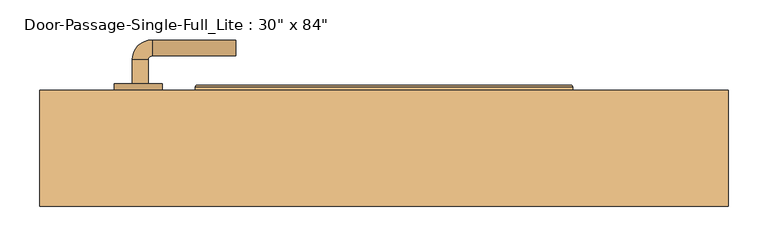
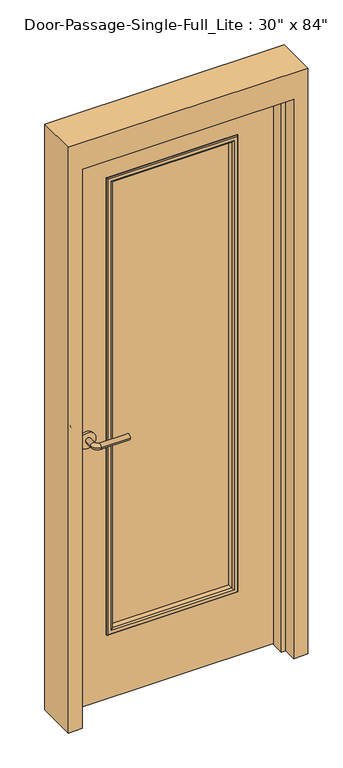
"""IFC4 building model written with IfcOpenShell, lengths in millimetres: door geometry."""

from ifc_helpers import new_model, si_unit, point, frame, frame_2d, origin, place, context, project, spatial, polyline, circle_curve, ellipse_curve, trimmed, segment, composite_curve, outline, extrude, faceted_brep, source, transform, mapped, element, save
from ifc_brep_helpers import plane_surface, cylinder_surface, revolved_surface, advanced_brep


def door_f206b04c(model_context):
    return source(origin(), model_context, "Body", "SolidModel", [
        advanced_brep(
        [(-315.990625, 15.8125, 1016.0), (-295.990625, 15.8125, 1016.0), (-295.990625, -14.1875, 1016.0), (-315.990625, -14.1875, 1016.0), (-290.990625, -19.1875, 1016.0), (-290.990625, -39.1875, 1016.0), (-185.990625, -39.1875, 1016.0), (-185.990625, -19.1875, 1016.0)],
        [
            (0, 1, circle_curve(frame((-305.990625, 15.8125, 1016.0), z_axis=(0.0, 1.0, 0.0), x_axis=(1.0, 0.0, 0.0)), 10.0)),
            (1, 0, circle_curve(frame((-305.990625, 15.8125, 1016.0), z_axis=(0.0, 1.0, 0.0), x_axis=(1.0, 0.0, 0.0)), 10.0)),
            (1, 2),
            (2, 3, circle_curve(frame((-305.990625, -14.1875, 1016.0), z_axis=(0.0, 1.0, 0.0), x_axis=(1.0, 0.0, 0.0)), 10.0)),
            (3, 0),
            (3, 2, circle_curve(frame((-305.990625, -14.1875, 1016.0), z_axis=(0.0, 1.0, 0.0), x_axis=(1.0, 0.0, 0.0)), 10.0)),
            (4, 5, circle_curve(frame((-290.990625, -29.1875, 1016.0), z_axis=(-1.0, 0.0, 0.0), x_axis=(0.0, 1.0, 0.0)), 10.0)),
            (5, 3, circle_curve(frame((-290.990625, -14.1875, 1016.0), z_axis=(0.0, 0.0, -1.0), x_axis=(-1.0, 0.0, 0.0)), 25.0)),
            (2, 4, circle_curve(frame((-290.990625, -14.1875, 1016.0), z_axis=(0.0, 0.0, 1.0), x_axis=(-1.0, 0.0, 0.0)), 5.0)),
            (5, 4, circle_curve(frame((-290.990625, -29.1875, 1016.0), z_axis=(-1.0, 0.0, 0.0), x_axis=(0.0, 1.0, 0.0)), 10.0)),
            (6, 7, circle_curve(frame((-185.990625, -29.1875, 1016.0), z_axis=(1.0, 0.0, 0.0), x_axis=(0.0, 1.0, 0.0)), 10.0)),
            (7, 6, circle_curve(frame((-185.990625, -29.1875, 1016.0), z_axis=(1.0, 0.0, 0.0), x_axis=(0.0, 1.0, 0.0)), 10.0)),
            (4, 7),
            (6, 5),
        ],
        [
            plane_surface(frame((-305.990625, 15.8125, 1016.0), z_axis=(0.0, 1.0, 0.0), x_axis=(0.0, 0.0, 1.0))),
            cylinder_surface(frame((-305.990625, 15.8125, 1016.0), z_axis=(0.0, 1.0, 0.0), x_axis=(1.0, 0.0, 0.0)), 10.0),
            revolved_surface(trimmed(ellipse_curve(frame((-305.990625, -14.1875, 1016.0), z_axis=(0.0, -1.0, 0.0), x_axis=(1.0, 0.0, 0.0)), 10.0, 10.0), [point((-315.990625, -14.1875, 1016.0))], [point((-295.990625, -14.1875, 1016.0))], True, "CARTESIAN"), (-290.990625, -14.1875, 1016.0), (0.0, 0.0, -1.0)),
            revolved_surface(trimmed(ellipse_curve(frame((-305.990625, -14.1875, 1016.0), z_axis=(0.0, -1.0, 0.0), x_axis=(1.0, 0.0, 0.0)), 10.0, 10.0), [point((-295.990625, -14.1875, 1016.0))], [point((-315.990625, -14.1875, 1016.0))], True, "CARTESIAN"), (-290.990625, -14.1875, 1016.0), (0.0, 0.0, -1.0)),
            plane_surface(frame((-185.990625, -29.1875, 1016.0), z_axis=(1.0, 0.0, 0.0), x_axis=(0.0, 0.0, 1.0))),
            cylinder_surface(frame((-290.990625, -29.1875, 1016.0), z_axis=(-1.0, 0.0, 0.0), x_axis=(0.0, 1.0, 0.0)), 10.0),
        ],
        [
            (0, [[1, 2]]),
            (1, [[3, 4, 5, -2]]),
            (1, [[-5, 6, -3, -1]]),
            (2, [[7, 8, -4, 9]]),
            (3, [[10, -9, -6, -8]]),
            (4, [[11, 12]]),
            (5, [[13, -11, 14, -7]]),
            (5, [[-14, -12, -13, -10]]),
        ],
    ),
        extrude(outline(composite_curve([segment(trimmed(circle_curve(frame_2d((1016.0, -308.490625)), 30.0), [point((1016.0, -338.490625))], [point((1016.0, -278.490625))], False, "CARTESIAN"), True, "CONTINUOUS"), segment(trimmed(circle_curve(frame_2d((1016.0, -308.490625)), 30.0), [point((1016.0, -278.490625))], [point((1016.0, -338.490625))], False, "CARTESIAN"), True, "CONTINUOUS")], self_intersect=False)), frame((0.0, 15.8125, 0.0), z_axis=(0.0, 1.0, 0.0), x_axis=(0.0, 0.0, 1.0)), (0.0, 0.0, 1.0), 8.0),
        advanced_brep(
        [(-315.990625, 76.2625, 1016.0), (-295.990625, 76.2625, 1016.0), (-315.990625, 106.2625, 1016.0), (-295.990625, 106.2625, 1016.0), (-290.990625, 111.2625, 1016.0), (-290.990625, 131.2625, 1016.0), (-185.990625, 131.2625, 1016.0), (-185.990625, 111.2625, 1016.0)],
        [
            (0, 1, circle_curve(frame((-305.990625, 76.2625, 1016.0), z_axis=(0.0, -1.0, 0.0), x_axis=(1.0, 0.0, 0.0)), 10.0)),
            (1, 0, circle_curve(frame((-305.990625, 76.2625, 1016.0), z_axis=(0.0, -1.0, 0.0), x_axis=(1.0, 0.0, 0.0)), 10.0)),
            (0, 2),
            (2, 3, circle_curve(frame((-305.990625, 106.2625, 1016.0), z_axis=(0.0, -1.0, 0.0), x_axis=(1.0, 0.0, 0.0)), 10.0)),
            (3, 1),
            (3, 2, circle_curve(frame((-305.990625, 106.2625, 1016.0), z_axis=(0.0, -1.0, 0.0), x_axis=(1.0, 0.0, 0.0)), 10.0)),
            (4, 3, circle_curve(frame((-290.990625, 106.2625, 1016.0), z_axis=(0.0, 0.0, 1.0), x_axis=(-1.0, 0.0, 0.0)), 5.0)),
            (2, 5, circle_curve(frame((-290.990625, 106.2625, 1016.0), z_axis=(0.0, 0.0, -1.0), x_axis=(-1.0, 0.0, 0.0)), 25.0)),
            (5, 4, circle_curve(frame((-290.990625, 121.2625, 1016.0), z_axis=(-1.0, 0.0, 0.0), x_axis=(0.0, -1.0, 0.0)), 10.0)),
            (4, 5, circle_curve(frame((-290.990625, 121.2625, 1016.0), z_axis=(-1.0, 0.0, 0.0), x_axis=(0.0, -1.0, 0.0)), 10.0)),
            (6, 7, circle_curve(frame((-185.990625, 121.2625, 1016.0), z_axis=(1.0, 0.0, 0.0), x_axis=(0.0, -1.0, 0.0)), 10.0)),
            (7, 6, circle_curve(frame((-185.990625, 121.2625, 1016.0), z_axis=(1.0, 0.0, 0.0), x_axis=(0.0, -1.0, 0.0)), 10.0)),
            (5, 6),
            (7, 4),
        ],
        [
            plane_surface(frame((-305.990625, 76.2625, 1016.0), z_axis=(0.0, -1.0, 0.0), x_axis=(0.0, 0.0, 1.0))),
            cylinder_surface(frame((-305.990625, 76.2625, 1016.0), z_axis=(0.0, -1.0, 0.0), x_axis=(1.0, 0.0, 0.0)), 10.0),
            revolved_surface(trimmed(ellipse_curve(frame((-305.990625, 106.2625, 1016.0), z_axis=(0.0, -1.0, 0.0), x_axis=(1.0, 0.0, 0.0)), 10.0, 10.0), [point((-315.990625, 106.2625, 1016.0))], [point((-295.990625, 106.2625, 1016.0))], True, "CARTESIAN"), (-290.990625, 106.2625, 1016.0), (0.0, 0.0, -1.0)),
            revolved_surface(trimmed(ellipse_curve(frame((-305.990625, 106.2625, 1016.0), z_axis=(0.0, -1.0, 0.0), x_axis=(1.0, 0.0, 0.0)), 10.0, 10.0), [point((-295.990625, 106.2625, 1016.0))], [point((-315.990625, 106.2625, 1016.0))], True, "CARTESIAN"), (-290.990625, 106.2625, 1016.0), (0.0, 0.0, -1.0)),
            plane_surface(frame((-185.990625, 121.2625, 1016.0), z_axis=(1.0, 0.0, 0.0), x_axis=(0.0, 0.0, 1.0))),
            cylinder_surface(frame((-290.990625, 121.2625, 1016.0), z_axis=(-1.0, 0.0, 0.0), x_axis=(0.0, -1.0, 0.0)), 10.0),
        ],
        [
            (0, [[1, 2]]),
            (1, [[-1, 3, 4, 5]]),
            (1, [[-2, -5, 6, -3]]),
            (2, [[7, -4, 8, 9]]),
            (3, [[-8, -6, -7, 10]]),
            (4, [[11, 12]]),
            (5, [[-9, 13, -12, 14]]),
            (5, [[-10, -14, -11, -13]]),
        ],
    ),
        extrude(outline(composite_curve([segment(trimmed(circle_curve(frame_2d((1016.0, -308.490625)), 30.0), [point((1016.0, -338.490625))], [point((1016.0, -278.490625))], False, "CARTESIAN"), True, "CONTINUOUS"), segment(trimmed(circle_curve(frame_2d((1016.0, -308.490625)), 30.0), [point((1016.0, -278.490625))], [point((1016.0, -338.490625))], False, "CARTESIAN"), True, "CONTINUOUS")], self_intersect=False)), frame((0.0, 68.2625, 0.0), z_axis=(0.0, 1.0, 0.0), x_axis=(0.0, 0.0, 1.0)), (0.0, 0.0, 1.0), 8.0),
        extrude(outline(polyline([(228.6, 42.8625), (-228.6, 42.8625), (-228.6, 49.2125), (228.6, 49.2125), (228.6, 42.8625)])), frame((0.0, 0.0, 254.0), z_axis=(0.0, 0.0, 1.0), x_axis=(1.0, 0.0, 0.0)), (0.0, 0.0, 1.0), 1727.2),
        faceted_brep([(381.0, 19.05, 0.0), (381.0, 68.2625, 0.0), (431.8, 68.2625, 0.0), (431.8, -77.7875, 0.0), (381.0, -77.7875, 0.0), (381.0, -28.575, 0.0), (365.125, -28.575, 0.0), (365.125, 19.05, 0.0), (381.0, 19.05, 2133.6), (381.0, 68.2625, 2133.6), (-381.0, 68.2625, 2133.6), (-381.0, 68.2625, 0.0), (-431.8, 68.2625, 0.0), (-431.8, 68.2625, 2235.2), (431.8, 68.2625, 2235.2), (431.8, -77.7875, 2235.2), (-431.8, -77.7875, 2235.2), (-431.8, -77.7875, 0.0), (-381.0, -77.7875, 0.0), (-381.0, -77.7875, 2133.6), (381.0, -77.7875, 2133.6), (381.0, -28.575, 2133.6), (-381.0, -28.575, 2133.6), (-381.0, -28.575, 0.0), (-365.125, -28.575, 0.0), (-365.125, -28.575, 2117.725), (365.125, -28.575, 2117.725), (365.125, 19.05, 2117.725), (-365.125, 19.05, 2117.725), (-365.125, 19.05, 0.0), (-381.0, 19.05, 0.0), (-381.0, 19.05, 2133.6)], [[[0, 1, 2, 3, 4, 5, 6, 7]], [[1, 0, 8, 9]], [[2, 1, 9, 10, 11, 12, 13, 14]], [[3, 2, 14, 15]], [[4, 3, 15, 16, 17, 18, 19, 20]], [[5, 4, 20, 21]], [[6, 5, 21, 22, 23, 24, 25, 26]], [[7, 6, 26, 27]], [[0, 7, 27, 28, 29, 30, 31, 8]], [[9, 8, 31, 10]], [[20, 19, 22, 21]], [[26, 25, 28, 27]], [[12, 11, 30, 29, 24, 23, 18, 17]], [[11, 10, 31, 30]], [[13, 12, 17, 16]], [[19, 18, 23, 22]], [[25, 24, 29, 28]], [[15, 14, 13, 16]]]),
        extrude(outline(polyline([(2133.6, -381.0), (0.0, -381.0), (0.0, 381.0), (2133.6, 381.0), (2133.6, -381.0)]), holes=[polyline([(1981.2, -228.6), (1981.2, 228.6), (254.0, 228.6), (254.0, -228.6), (1981.2, -228.6)])]), frame((0.0, 23.8125, 0.0), z_axis=(0.0, 1.0, 0.0), x_axis=(0.0, 0.0, 1.0)), (0.0, 0.0, 1.0), 44.45),
        advanced_brep(
        [(-228.6, 49.2125, 1981.2), (-228.6, 68.2625, 1981.2), (-228.6, 68.2625, 254.0), (-228.6, 49.2125, 254.0), (-216.6, 69.2625, 1969.2), (-216.6, 49.2125, 1969.2), (-216.6, 49.2125, 266.0), (-216.6, 69.2625, 266.0), (-221.6, 74.2625, 1974.2), (-221.6, 74.2625, 261.0), (-236.6, 72.2625, 1989.2), (-234.6, 74.2625, 1987.2), (-234.6, 74.2625, 248.0), (-236.6, 72.2625, 246.0), (-236.6, 68.2625, 1989.2), (-236.6, 68.2625, 246.0), (228.6, 68.2625, 254.0), (228.6, 49.2125, 254.0), (216.6, 49.2125, 266.0), (216.6, 69.2625, 266.0), (221.6, 74.2625, 261.0), (234.6, 74.2625, 248.0), (236.6, 72.2625, 246.0), (236.6, 68.2625, 246.0), (228.6, 68.2625, 1981.2), (228.6, 49.2125, 1981.2), (216.6, 49.2125, 1969.2), (216.6, 69.2625, 1969.2), (221.6, 74.2625, 1974.2), (234.6, 74.2625, 1987.2), (236.6, 72.2625, 1989.2), (236.6, 68.2625, 1989.2)],
        [
            (0, 1),
            (1, 2),
            (2, 3),
            (3, 0),
            (4, 5),
            (5, 6),
            (6, 7),
            (7, 4),
            (8, 4, ellipse_curve(frame((-221.6, 69.2625, 1974.2), z_axis=(-0.7071067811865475, 0.0, -0.7071067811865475), x_axis=(-0.7071067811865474, 0.0, 0.7071067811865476)), 7.0710678, 5.0)),
            (7, 9, ellipse_curve(frame((-221.6, 69.2625, 261.0), z_axis=(-0.7071067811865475, 0.0, 0.7071067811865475), x_axis=(0.7071067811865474, 0.0, 0.7071067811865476)), 7.0710678, 5.0)),
            (9, 8),
            (10, 11, ellipse_curve(frame((-234.6, 72.2625, 1987.2), z_axis=(-0.7071067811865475, 0.0, -0.7071067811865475), x_axis=(-0.7071067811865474, 0.0, 0.7071067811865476)), 2.8284271, 2.0)),
            (11, 12),
            (12, 13, ellipse_curve(frame((-234.6, 72.2625, 248.0), z_axis=(-0.7071067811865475, 0.0, 0.7071067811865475), x_axis=(0.7071067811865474, 0.0, 0.7071067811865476)), 2.8284271, 2.0)),
            (13, 10),
            (14, 10),
            (13, 15),
            (15, 14),
            (2, 16),
            (16, 17),
            (17, 3),
            (6, 18),
            (18, 19),
            (19, 7),
            (19, 20, ellipse_curve(frame((221.6, 69.2625, 261.0), z_axis=(-0.7071067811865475, 0.0, -0.7071067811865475), x_axis=(-0.7071067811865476, 0.0, 0.7071067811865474)), 7.0710678, 5.0)),
            (20, 9),
            (12, 21),
            (21, 22, ellipse_curve(frame((234.6, 72.2625, 248.0), z_axis=(-0.7071067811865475, 0.0, -0.7071067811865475), x_axis=(-0.7071067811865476, 0.0, 0.7071067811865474)), 2.8284271, 2.0)),
            (22, 13),
            (22, 23),
            (23, 15),
            (16, 24),
            (24, 25),
            (25, 17),
            (18, 26),
            (26, 27),
            (27, 19),
            (27, 28, ellipse_curve(frame((221.6, 69.2625, 1974.2), z_axis=(0.7071067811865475, 0.0, -0.7071067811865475), x_axis=(-0.7071067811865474, 0.0, -0.7071067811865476)), 7.0710678, 5.0)),
            (28, 20),
            (21, 29),
            (29, 30, ellipse_curve(frame((234.6, 72.2625, 1987.2), z_axis=(0.7071067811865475, 0.0, -0.7071067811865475), x_axis=(-0.7071067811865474, 0.0, -0.7071067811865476)), 2.8284271, 2.0)),
            (30, 22),
            (30, 31),
            (31, 23),
            (31, 14),
            (1, 24),
            (0, 25),
            (5, 26),
            (4, 27),
            (8, 28),
            (11, 29),
            (10, 30),
        ],
        [
            plane_surface(frame((-228.6, 68.2625, 1981.2), z_axis=(-1.0, 0.0, 0.0), x_axis=(0.0, 0.0, -1.0))),
            plane_surface(frame((-216.6, 49.2125, 1969.2), z_axis=(1.0, 0.0, 0.0), x_axis=(0.0, 0.0, -1.0))),
            cylinder_surface(frame((-221.6, 69.2625, 1981.2), z_axis=(0.0, 0.0, 1.0), x_axis=(-1.0, 0.0, 0.0)), 5.0),
            cylinder_surface(frame((-234.6, 72.2625, 1981.2), z_axis=(0.0, 0.0, 1.0), x_axis=(-1.0, 0.0, 0.0)), 2.0),
            plane_surface(frame((-236.6, 72.2625, 1989.2), z_axis=(-1.0, 0.0, 0.0), x_axis=(0.0, 0.0, -1.0))),
            plane_surface(frame((-228.6, 68.2625, 254.0), z_axis=(0.0, 0.0, -1.0), x_axis=(1.0, 0.0, 0.0))),
            plane_surface(frame((-216.6, 49.2125, 266.0), z_axis=(0.0, 0.0, 1.0), x_axis=(1.0, 0.0, 0.0))),
            cylinder_surface(frame((-228.6, 69.2625, 261.0), z_axis=(-1.0, 0.0, 0.0), x_axis=(0.0, 0.0, -1.0)), 5.0),
            cylinder_surface(frame((-228.6, 72.2625, 248.0), z_axis=(-1.0, 0.0, 0.0), x_axis=(0.0, 0.0, -1.0)), 2.0),
            plane_surface(frame((-236.6, 72.2625, 246.0), z_axis=(0.0, 0.0, -1.0), x_axis=(1.0, 0.0, 0.0))),
            plane_surface(frame((228.6, 68.2625, 254.0), z_axis=(1.0, 0.0, 0.0), x_axis=(0.0, 0.0, 1.0))),
            plane_surface(frame((216.6, 49.2125, 266.0), z_axis=(-1.0, 0.0, 0.0), x_axis=(0.0, 0.0, 1.0))),
            cylinder_surface(frame((221.6, 69.2625, 254.0), z_axis=(0.0, 0.0, -1.0), x_axis=(1.0, 0.0, 0.0)), 5.0),
            cylinder_surface(frame((234.6, 72.2625, 254.0), z_axis=(0.0, 0.0, -1.0), x_axis=(1.0, 0.0, 0.0)), 2.0),
            plane_surface(frame((236.6, 72.2625, 246.0), z_axis=(1.0, 0.0, 0.0), x_axis=(0.0, 0.0, 1.0))),
            plane_surface(frame((236.6, 68.2625, 1989.2), z_axis=(0.0, -1.0, 0.0), x_axis=(-1.0, 0.0, 0.0))),
            plane_surface(frame((228.6, 68.2625, 1981.2), z_axis=(0.0, 0.0, 1.0), x_axis=(-1.0, 0.0, 0.0))),
            plane_surface(frame((228.6, 49.2125, 1981.2), z_axis=(0.0, -1.0, 0.0), x_axis=(-1.0, 0.0, 0.0))),
            plane_surface(frame((216.6, 49.2125, 1969.2), z_axis=(0.0, 0.0, -1.0), x_axis=(-1.0, 0.0, 0.0))),
            cylinder_surface(frame((228.6, 69.2625, 1974.2), z_axis=(1.0, 0.0, 0.0), x_axis=(0.0, 0.0, 1.0)), 5.0),
            plane_surface(frame((221.6, 74.2625, 1974.2), z_axis=(0.0, 1.0, 0.0), x_axis=(-1.0, 0.0, 0.0))),
            cylinder_surface(frame((228.6, 72.2625, 1987.2), z_axis=(1.0, 0.0, 0.0), x_axis=(0.0, 0.0, 1.0)), 2.0),
            plane_surface(frame((236.6, 72.2625, 1989.2), z_axis=(0.0, 0.0, 1.0), x_axis=(-1.0, 0.0, 0.0))),
        ],
        [
            (0, [[1, 2, 3, 4]]),
            (1, [[5, 6, 7, 8]]),
            (2, [[9, -8, 10, 11]]),
            (3, [[12, 13, 14, 15]]),
            (4, [[16, -15, 17, 18]]),
            (5, [[-3, 19, 20, 21]]),
            (6, [[-7, 22, 23, 24]]),
            (7, [[-10, -24, 25, 26]]),
            (8, [[-14, 27, 28, 29]]),
            (9, [[-17, -29, 30, 31]]),
            (10, [[-20, 32, 33, 34]]),
            (11, [[-23, 35, 36, 37]]),
            (12, [[-25, -37, 38, 39]]),
            (13, [[-28, 40, 41, 42]]),
            (14, [[-30, -42, 43, 44]]),
            (15, [[-31, -44, 45, -18], [46, -32, -19, -2]]),
            (16, [[-33, -46, -1, 47]]),
            (17, [[-21, -34, -47, -4], [48, -35, -22, -6]]),
            (18, [[-36, -48, -5, 49]]),
            (19, [[-38, -49, -9, 50]]),
            (20, [[51, -40, -27, -13], [-26, -39, -50, -11]]),
            (21, [[-41, -51, -12, 52]]),
            (22, [[-43, -52, -16, -45]]),
        ],
    ),
        advanced_brep(
        [(-228.6, 42.8625, 254.0), (-228.6, 23.8125, 254.0), (-228.6, 23.8125, 1981.2), (-228.6, 42.8625, 1981.2), (-216.6, 22.8125, 266.0), (-216.6, 42.8625, 266.0), (-216.6, 42.8625, 1969.2), (-216.6, 22.8125, 1969.2), (-221.6, 17.8125, 261.0), (-221.6, 17.8125, 1974.2), (-236.6, 19.8125, 246.0), (-234.6, 17.8125, 248.0), (-234.6, 17.8125, 1987.2), (-236.6, 19.8125, 1989.2), (-236.6, 23.8125, 246.0), (-236.6, 23.8125, 1989.2), (228.6, 23.8125, 1981.2), (228.6, 42.8625, 1981.2), (216.6, 42.8625, 1969.2), (216.6, 22.8125, 1969.2), (221.6, 17.8125, 1974.2), (234.6, 17.8125, 1987.2), (236.6, 19.8125, 1989.2), (236.6, 23.8125, 1989.2), (228.6, 23.8125, 254.0), (228.6, 42.8625, 254.0), (216.6, 42.8625, 266.0), (216.6, 22.8125, 266.0), (221.6, 17.8125, 261.0), (234.6, 17.8125, 248.0), (236.6, 19.8125, 246.0), (236.6, 23.8125, 246.0)],
        [
            (0, 1),
            (1, 2),
            (2, 3),
            (3, 0),
            (4, 5),
            (5, 6),
            (6, 7),
            (7, 4),
            (8, 4, ellipse_curve(frame((-221.6, 22.8125, 261.0), z_axis=(-0.7071067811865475, 0.0, 0.7071067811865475), x_axis=(-0.7071067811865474, 0.0, -0.7071067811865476)), 7.0710678, 5.0)),
            (7, 9, ellipse_curve(frame((-221.6, 22.8125, 1974.2), z_axis=(-0.7071067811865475, 0.0, -0.7071067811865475), x_axis=(0.7071067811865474, 0.0, -0.7071067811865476)), 7.0710678, 5.0)),
            (9, 8),
            (10, 11, ellipse_curve(frame((-234.6, 19.8125, 248.0), z_axis=(-0.7071067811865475, 0.0, 0.7071067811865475), x_axis=(-0.7071067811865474, 0.0, -0.7071067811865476)), 2.8284271, 2.0)),
            (11, 12),
            (12, 13, ellipse_curve(frame((-234.6, 19.8125, 1987.2), z_axis=(-0.7071067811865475, 0.0, -0.7071067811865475), x_axis=(0.7071067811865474, 0.0, -0.7071067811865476)), 2.8284271, 2.0)),
            (13, 10),
            (14, 10),
            (13, 15),
            (15, 14),
            (2, 16),
            (16, 17),
            (17, 3),
            (6, 18),
            (18, 19),
            (19, 7),
            (19, 20, ellipse_curve(frame((221.6, 22.8125, 1974.2), z_axis=(-0.7071067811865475, 0.0, 0.7071067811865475), x_axis=(-0.7071067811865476, 0.0, -0.7071067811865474)), 7.0710678, 5.0)),
            (20, 9),
            (12, 21),
            (21, 22, ellipse_curve(frame((234.6, 19.8125, 1987.2), z_axis=(-0.7071067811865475, 0.0, 0.7071067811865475), x_axis=(-0.7071067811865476, 0.0, -0.7071067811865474)), 2.8284271, 2.0)),
            (22, 13),
            (22, 23),
            (23, 15),
            (16, 24),
            (24, 25),
            (25, 17),
            (18, 26),
            (26, 27),
            (27, 19),
            (27, 28, ellipse_curve(frame((221.6, 22.8125, 261.0), z_axis=(0.7071067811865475, 0.0, 0.7071067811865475), x_axis=(-0.7071067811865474, 0.0, 0.7071067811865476)), 7.0710678, 5.0)),
            (28, 20),
            (21, 29),
            (29, 30, ellipse_curve(frame((234.6, 19.8125, 248.0), z_axis=(0.7071067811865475, 0.0, 0.7071067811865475), x_axis=(-0.7071067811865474, 0.0, 0.7071067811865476)), 2.8284271, 2.0)),
            (30, 22),
            (30, 31),
            (31, 23),
            (31, 14),
            (1, 24),
            (0, 25),
            (5, 26),
            (4, 27),
            (8, 28),
            (11, 29),
            (10, 30),
        ],
        [
            plane_surface(frame((-228.6, 23.8125, 254.0), z_axis=(-1.0, 0.0, 0.0), x_axis=(0.0, 0.0, 1.0))),
            plane_surface(frame((-216.6, 42.8625, 266.0), z_axis=(1.0, 0.0, 0.0), x_axis=(0.0, 0.0, 1.0))),
            cylinder_surface(frame((-221.6, 22.8125, 254.0), z_axis=(0.0, 0.0, -1.0), x_axis=(-1.0, 0.0, 0.0)), 5.0),
            cylinder_surface(frame((-234.6, 19.8125, 254.0), z_axis=(0.0, 0.0, -1.0), x_axis=(-1.0, 0.0, 0.0)), 2.0),
            plane_surface(frame((-236.6, 19.8125, 246.0), z_axis=(-1.0, 0.0, 0.0), x_axis=(0.0, 0.0, 1.0))),
            plane_surface(frame((-228.6, 23.8125, 1981.2), z_axis=(0.0, 0.0, 1.0), x_axis=(1.0, 0.0, 0.0))),
            plane_surface(frame((-216.6, 42.8625, 1969.2), z_axis=(0.0, 0.0, -1.0), x_axis=(1.0, 0.0, 0.0))),
            cylinder_surface(frame((-228.6, 22.8125, 1974.2), z_axis=(-1.0, 0.0, 0.0), x_axis=(0.0, 0.0, 1.0)), 5.0),
            cylinder_surface(frame((-228.6, 19.8125, 1987.2), z_axis=(-1.0, 0.0, 0.0), x_axis=(0.0, 0.0, 1.0)), 2.0),
            plane_surface(frame((-236.6, 19.8125, 1989.2), z_axis=(0.0, 0.0, 1.0), x_axis=(1.0, 0.0, 0.0))),
            plane_surface(frame((228.6, 23.8125, 1981.2), z_axis=(1.0, 0.0, 0.0), x_axis=(0.0, 0.0, -1.0))),
            plane_surface(frame((216.6, 42.8625, 1969.2), z_axis=(-1.0, 0.0, 0.0), x_axis=(0.0, 0.0, -1.0))),
            cylinder_surface(frame((221.6, 22.8125, 1981.2), z_axis=(0.0, 0.0, 1.0), x_axis=(1.0, 0.0, 0.0)), 5.0),
            cylinder_surface(frame((234.6, 19.8125, 1981.2), z_axis=(0.0, 0.0, 1.0), x_axis=(1.0, 0.0, 0.0)), 2.0),
            plane_surface(frame((236.6, 19.8125, 1989.2), z_axis=(1.0, 0.0, 0.0), x_axis=(0.0, 0.0, -1.0))),
            plane_surface(frame((236.6, 23.8125, 246.0), z_axis=(0.0, 1.0, 0.0), x_axis=(-1.0, 0.0, 0.0))),
            plane_surface(frame((228.6, 23.8125, 254.0), z_axis=(0.0, 0.0, -1.0), x_axis=(-1.0, 0.0, 0.0))),
            plane_surface(frame((228.6, 42.8625, 254.0), z_axis=(0.0, 1.0, 0.0), x_axis=(-1.0, 0.0, 0.0))),
            plane_surface(frame((216.6, 42.8625, 266.0), z_axis=(0.0, 0.0, 1.0), x_axis=(-1.0, 0.0, 0.0))),
            cylinder_surface(frame((228.6, 22.8125, 261.0), z_axis=(1.0, 0.0, 0.0), x_axis=(0.0, 0.0, -1.0)), 5.0),
            plane_surface(frame((221.6, 17.8125, 261.0), z_axis=(0.0, -1.0, 0.0), x_axis=(-1.0, 0.0, 0.0))),
            cylinder_surface(frame((228.6, 19.8125, 248.0), z_axis=(1.0, 0.0, 0.0), x_axis=(0.0, 0.0, -1.0)), 2.0),
            plane_surface(frame((236.6, 19.8125, 246.0), z_axis=(0.0, 0.0, -1.0), x_axis=(-1.0, 0.0, 0.0))),
        ],
        [
            (0, [[1, 2, 3, 4]]),
            (1, [[5, 6, 7, 8]]),
            (2, [[9, -8, 10, 11]]),
            (3, [[12, 13, 14, 15]]),
            (4, [[16, -15, 17, 18]]),
            (5, [[-3, 19, 20, 21]]),
            (6, [[-7, 22, 23, 24]]),
            (7, [[-10, -24, 25, 26]]),
            (8, [[-14, 27, 28, 29]]),
            (9, [[-17, -29, 30, 31]]),
            (10, [[-20, 32, 33, 34]]),
            (11, [[-23, 35, 36, 37]]),
            (12, [[-25, -37, 38, 39]]),
            (13, [[-28, 40, 41, 42]]),
            (14, [[-30, -42, 43, 44]]),
            (15, [[-31, -44, 45, -18], [46, -32, -19, -2]]),
            (16, [[-33, -46, -1, 47]]),
            (17, [[-21, -34, -47, -4], [48, -35, -22, -6]]),
            (18, [[-36, -48, -5, 49]]),
            (19, [[-38, -49, -9, 50]]),
            (20, [[51, -40, -27, -13], [-26, -39, -50, -11]]),
            (21, [[-41, -51, -12, 52]]),
            (22, [[-43, -52, -16, -45]]),
        ],
    ),
    ])


if __name__ == "__main__":
    model = new_model("IFC4")
    model_context = context("Model", 3, world=origin())
    ifc_project = project(units=[si_unit("LENGTHUNIT", "METRE", prefix="MILLI")], contexts=[model_context])
    site = spatial("IfcSite", under=ifc_project)
    building = spatial("IfcBuilding", under=site)
    placement = place(None, origin())
    door_shape = door_f206b04c(model_context)
    element("IfcDoor", 1, ObjectType="Door-Passage-Single-Full_Lite : 30\" x 84\"", at=placement, inside=building, context=model_context, shape_type="MappedRepresentation", body=[
        mapped(door_shape, transform((0.0, 0.0, 0.0), x_axis=(1.0, 0.0, 0.0), y_axis=(0.0, 1.0, 0.0), z_axis=(0.0, 0.0, 1.0))),
    ])
    save(model, "model.ifc")
